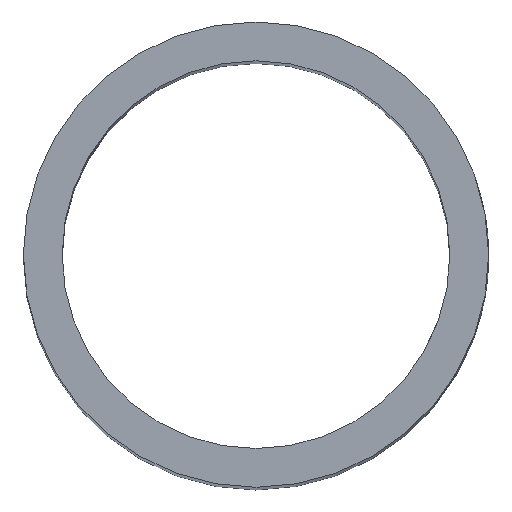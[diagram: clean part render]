
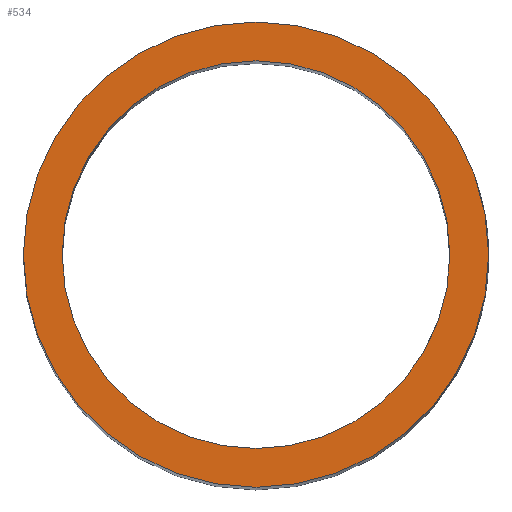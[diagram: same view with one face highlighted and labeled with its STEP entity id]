
A CAD part, top view. The second image highlights one B-rep face of the part: STEP entity #534.
In plain terms, the highlighted planar face has unit normal (0, 0, 1).
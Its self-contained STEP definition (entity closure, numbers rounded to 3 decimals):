
#31 = CYLINDRICAL_SURFACE('',#32,0.012);
#32 = AXIS2_PLACEMENT_3D('',#33,#34,#35);
#33 = CARTESIAN_POINT('',(0.,0.,0.));
#34 = DIRECTION('',(-0.,-0.,-1.));
#35 = DIRECTION('',(1.,0.,0.));
#181 = VERTEX_POINT('',#182);
#182 = CARTESIAN_POINT('',(0.012,0.,0.08));
#203 = EDGE_CURVE('',#181,#181,#204,.T.);
#204 = SURFACE_CURVE('',#205,(#210,#217),.PCURVE_S1.);
#205 = CIRCLE('',#206,0.012);
#206 = AXIS2_PLACEMENT_3D('',#207,#208,#209);
#207 = CARTESIAN_POINT('',(0.,0.,0.08));
#208 = DIRECTION('',(0.,0.,1.));
#209 = DIRECTION('',(1.,0.,0.));
#210 = PCURVE('',#31,#211);
#211 = DEFINITIONAL_REPRESENTATION('',(#212),#216);
#212 = LINE('',#213,#214);
#213 = CARTESIAN_POINT('',(-0.,-0.08));
#214 = VECTOR('',#215,1.);
#215 = DIRECTION('',(-1.,0.));
#216 = ( GEOMETRIC_REPRESENTATION_CONTEXT(2) 
PARAMETRIC_REPRESENTATION_CONTEXT() REPRESENTATION_CONTEXT('2D SPACE',''
  ) );
#217 = PCURVE('',#218,#223);
#218 = PLANE('',#219);
#219 = AXIS2_PLACEMENT_3D('',#220,#221,#222);
#220 = CARTESIAN_POINT('',(0.,0.,0.08
    ));
#221 = DIRECTION('',(0.,0.,1.));
#222 = DIRECTION('',(1.,0.,-0.));
#223 = DEFINITIONAL_REPRESENTATION('',(#224),#228);
#224 = CIRCLE('',#225,0.012);
#225 = AXIS2_PLACEMENT_2D('',#226,#227);
#226 = CARTESIAN_POINT('',(0.,0.));
#227 = DIRECTION('',(1.,0.));
#228 = ( GEOMETRIC_REPRESENTATION_CONTEXT(2) 
PARAMETRIC_REPRESENTATION_CONTEXT() REPRESENTATION_CONTEXT('2D SPACE',''
  ) );
#315 = CYLINDRICAL_SURFACE('',#316,0.01);
#316 = AXIS2_PLACEMENT_3D('',#317,#318,#319);
#317 = CARTESIAN_POINT('',(0.,0.,0.));
#318 = DIRECTION('',(-0.,-0.,-1.));
#319 = DIRECTION('',(1.,0.,0.));
#534 = ADVANCED_FACE('',(#535,#538),#218,.T.);
#535 = FACE_BOUND('',#536,.T.);
#536 = EDGE_LOOP('',(#537));
#537 = ORIENTED_EDGE('',*,*,#203,.T.);
#538 = FACE_BOUND('',#539,.T.);
#539 = EDGE_LOOP('',(#540));
#540 = ORIENTED_EDGE('',*,*,#541,.F.);
#541 = EDGE_CURVE('',#542,#542,#544,.T.);
#542 = VERTEX_POINT('',#543);
#543 = CARTESIAN_POINT('',(0.01,0.,0.08));
#544 = SURFACE_CURVE('',#545,(#550,#557),.PCURVE_S1.);
#545 = CIRCLE('',#546,0.01);
#546 = AXIS2_PLACEMENT_3D('',#547,#548,#549);
#547 = CARTESIAN_POINT('',(0.,0.,0.08));
#548 = DIRECTION('',(0.,0.,1.));
#549 = DIRECTION('',(1.,0.,0.));
#550 = PCURVE('',#218,#551);
#551 = DEFINITIONAL_REPRESENTATION('',(#552),#556);
#552 = CIRCLE('',#553,0.01);
#553 = AXIS2_PLACEMENT_2D('',#554,#555);
#554 = CARTESIAN_POINT('',(0.,0.));
#555 = DIRECTION('',(1.,0.));
#556 = ( GEOMETRIC_REPRESENTATION_CONTEXT(2) 
PARAMETRIC_REPRESENTATION_CONTEXT() REPRESENTATION_CONTEXT('2D SPACE',''
  ) );
#557 = PCURVE('',#315,#558);
#558 = DEFINITIONAL_REPRESENTATION('',(#559),#563);
#559 = LINE('',#560,#561);
#560 = CARTESIAN_POINT('',(-0.,-0.08));
#561 = VECTOR('',#562,1.);
#562 = DIRECTION('',(-1.,0.));
#563 = ( GEOMETRIC_REPRESENTATION_CONTEXT(2) 
PARAMETRIC_REPRESENTATION_CONTEXT() REPRESENTATION_CONTEXT('2D SPACE',''
  ) );
